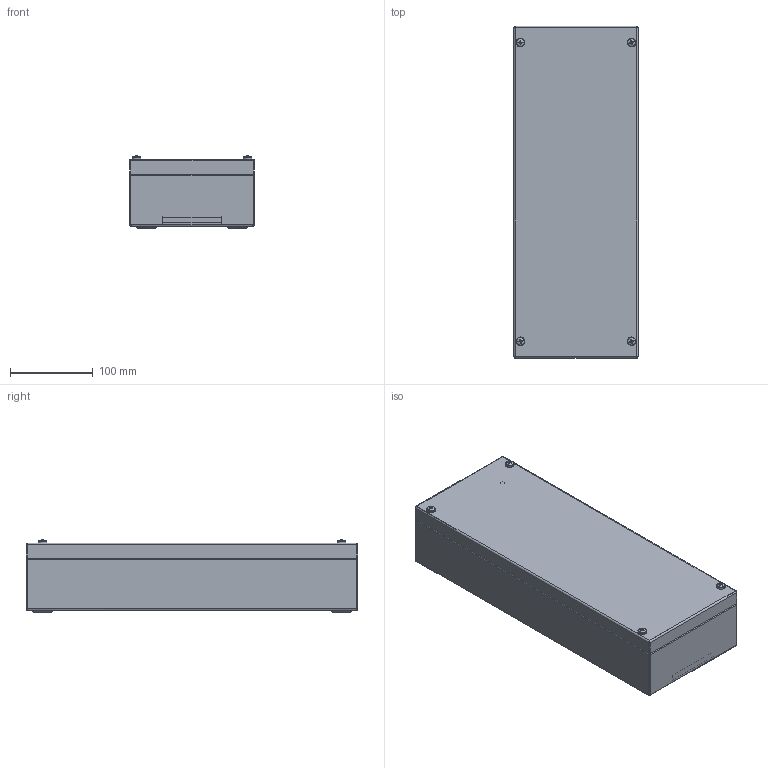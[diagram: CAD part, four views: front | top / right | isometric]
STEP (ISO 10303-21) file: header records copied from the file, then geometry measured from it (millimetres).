
FILE_DESCRIPTION (( 'STEP AP203' ), '1' );
FILE_NAME ('SJB-400 x 150 x 81-ASSEMBLY.STEP', '2020-03-13T11:12:35', ( '' ), ( '' ), 'SwSTEP 2.0', 'SolidWorks 2018', '' );
FILE_SCHEMA (( 'CONFIG_CONTROL_DESIGN' ));
Length unit declared in the file: millimetre
Products named in the file (7): SS JB-400 x 150 x 81-BASE_400 x 150 x 81; SS JB-400 x 150 x 81-LID_400 x 150 x 81; M5 BLIND NUTSERT; Dinral Mounting Channel-150; SJB-400 x 150 x 81-ASSEMBLY; PLASTIC INSERT FOR FABRICATED ENCLOSURE; M5X33 LID SCREW
Assembly tree (16 placements, depth 2):
  SJB-400 x 150 x 81-ASSEMBLY
    SS JB-400 x 150 x 81-BASE_400 x 150 x 81
    Dinral Mounting Channel-150  x2
    SS JB-400 x 150 x 81-LID_400 x 150 x 81
    M5 BLIND NUTSERT  x4
    M5X33 LID SCREW  x4
    PLASTIC INSERT FOR FABRICATED ENCLOSURE  x4
Bounding box: 150 x 400 x 86.81 mm (x, y, z)
Volume: 298585.7 mm3; surface area: 493133.8 mm2
Topology: 16 solids, 16 shells, 707 faces, 1678 edges, 1036 vertices
Faces by surface type: cylinder 298, plane 265, cone 104, bspline 32, sphere 8
Entity records: 14679 total; most frequent: CARTESIAN_POINT 4832, ORIENTED_EDGE 1872, DIRECTION 1715, EDGE_CURVE 936, AXIS2_PLACEMENT_3D 582, VERTEX_POINT 562, LINE 551, VECTOR 551
